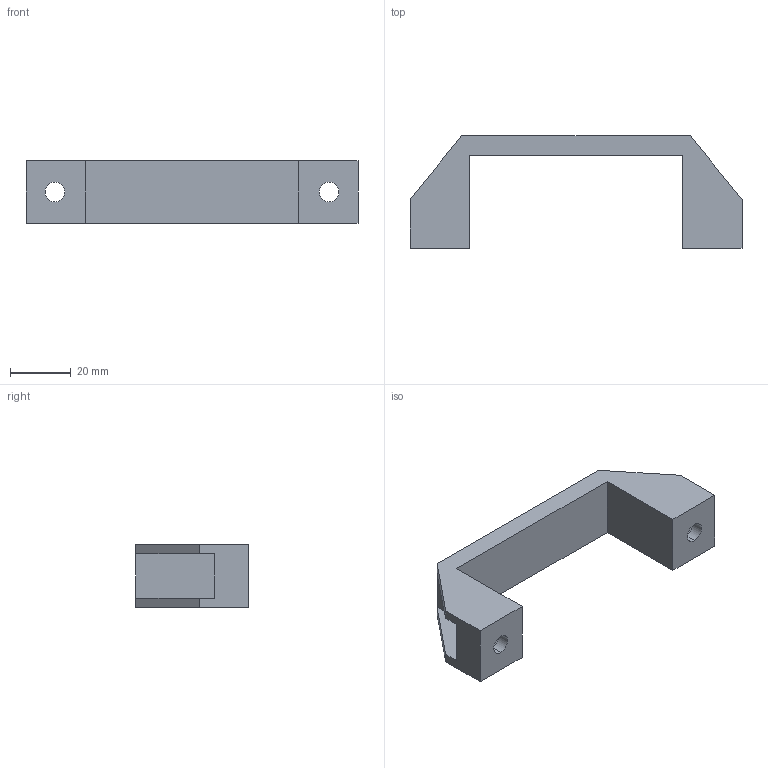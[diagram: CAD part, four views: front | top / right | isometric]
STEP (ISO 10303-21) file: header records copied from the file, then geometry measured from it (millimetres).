
FILE_DESCRIPTION (( 'STEP AP203' ), '1' );
FILE_NAME ('191-CE-HD-90.STEP', '2015-07-09T09:20:14', ( '' ), ( '' ), 'SwSTEP 2.0', 'SolidWorks 2013', '' );
FILE_SCHEMA (( 'CONFIG_CONTROL_DESIGN' ));
Length unit declared in the file: millimetre
Products named in the file (1): 191-CE-HD-90
Bounding box: 109 x 37 x 20.5 mm (x, y, z)
Volume: 22229.4 mm3; surface area: 11777.1 mm2
Topology: 1 solids, 1 shells, 32 faces, 80 edges, 52 vertices
Faces by surface type: plane 24, cylinder 8
Entity records: 1033 total; most frequent: CARTESIAN_POINT 165, DIRECTION 162, ORIENTED_EDGE 160, EDGE_CURVE 80, LINE 64, VECTOR 64, VERTEX_POINT 52, AXIS2_PLACEMENT_3D 49
